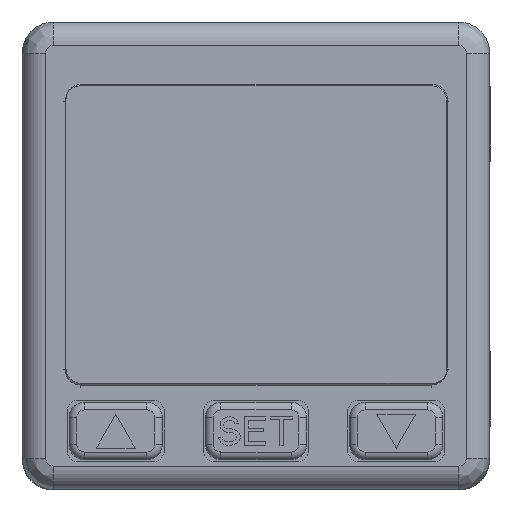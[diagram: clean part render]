
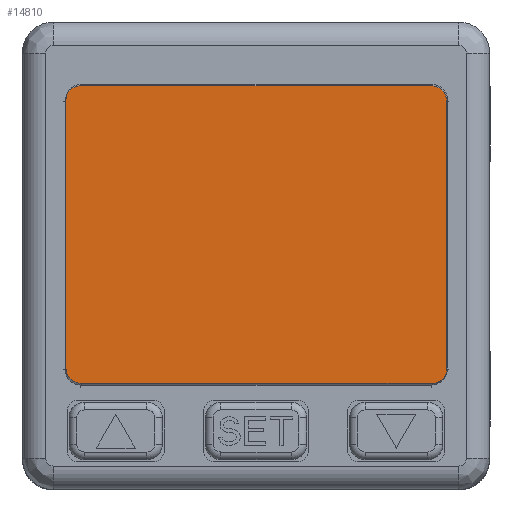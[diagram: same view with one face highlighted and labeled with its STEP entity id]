
A CAD part, top view. The second image highlights one B-rep face of the part: STEP entity #14810.
In plain terms, the highlighted planar face has unit normal (0, 0, 1).
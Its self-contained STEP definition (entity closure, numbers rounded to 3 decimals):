
#2020=CARTESIAN_POINT('',(11.25,10.992,24.97));
#2021=CARTESIAN_POINT('',(11.354,10.992,24.97));
#2022=CARTESIAN_POINT('',(11.546,10.963,24.97));
#2023=CARTESIAN_POINT('',(11.797,10.858,24.97));
#2024=CARTESIAN_POINT('',(12.016,10.695,24.97));
#2025=CARTESIAN_POINT('',(12.138,10.544,24.97));
#2026=CARTESIAN_POINT('',(12.191,10.454,24.97));
#2028=CARTESIAN_POINT('',(11.3,10.,24.97));
#2029=DIRECTION('',(0.,0.,1.));
#2030=DIRECTION('',(1.,0.,0.));
#2031=AXIS2_PLACEMENT_3D('',#2028,#2029,#2030);
#2033=DIRECTION('',(0.,1.,0.));
#2034=VECTOR('',#2033,17.2);
#2035=CARTESIAN_POINT('',(12.3,-7.2,24.97));
#2036=LINE('',#2035,#2034);
#2037=CARTESIAN_POINT('',(11.3,-7.2,24.97));
#2038=DIRECTION('',(0.,0.,1.));
#2039=DIRECTION('',(0.,-1.,0.));
#2040=AXIS2_PLACEMENT_3D('',#2037,#2038,#2039);
#2042=DIRECTION('',(1.,0.,0.));
#2043=VECTOR('',#2042,22.5);
#2044=CARTESIAN_POINT('',(-11.2,-8.2,24.97));
#2045=LINE('',#2044,#2043);
#2046=CARTESIAN_POINT('',(-11.2,-7.2,24.97));
#2047=DIRECTION('',(0.,0.,1.));
#2048=DIRECTION('',(-1.,0.,0.));
#2049=AXIS2_PLACEMENT_3D('',#2046,#2047,#2048);
#2051=DIRECTION('',(0.,-1.,0.));
#2052=VECTOR('',#2051,17.2);
#2053=CARTESIAN_POINT('',(-12.2,10.,24.97));
#2054=LINE('',#2053,#2052);
#2055=CARTESIAN_POINT('',(-11.2,10.,24.97));
#2056=DIRECTION('',(0.,0.,1.));
#2057=DIRECTION('',(-0.171,0.985,0.));
#2058=AXIS2_PLACEMENT_3D('',#2055,#2056,#2057);
#2060=CARTESIAN_POINT('',(-11.371,10.985,24.97));
#2061=CARTESIAN_POINT('',(-11.331,10.99,24.97));
#2062=CARTESIAN_POINT('',(-11.29,10.992,24.97));
#2063=CARTESIAN_POINT('',(-11.25,10.992,24.97));
#2065=DIRECTION('',(-1.,0.,0.));
#2066=VECTOR('',#2065,22.5);
#2067=CARTESIAN_POINT('',(11.25,10.992,24.97));
#2068=LINE('',#2067,#2066);
#9690=CARTESIAN_POINT('',(-12.2,10.,24.97));
#9691=CARTESIAN_POINT('',(-12.2,-7.2,24.97));
#9692=VERTEX_POINT('',#9690);
#9693=VERTEX_POINT('',#9691);
#9694=CARTESIAN_POINT('',(-11.2,-8.2,24.97));
#9695=VERTEX_POINT('',#9694);
#9696=CARTESIAN_POINT('',(11.3,-8.2,24.97));
#9697=VERTEX_POINT('',#9696);
#9698=CARTESIAN_POINT('',(12.3,-7.2,24.97));
#9699=VERTEX_POINT('',#9698);
#9700=CARTESIAN_POINT('',(12.3,10.,24.97));
#9701=VERTEX_POINT('',#9700);
#10938=VERTEX_POINT('',#2020);
#10939=VERTEX_POINT('',#2026);
#10940=CARTESIAN_POINT('',(-11.25,10.992,24.97));
#10941=VERTEX_POINT('',#10940);
#10942=VERTEX_POINT('',#2060);
#14785=CARTESIAN_POINT('',(0.05,2.6,24.97));
#14786=DIRECTION('',(0.,0.,1.));
#14787=DIRECTION('',(1.,0.,0.));
#14788=AXIS2_PLACEMENT_3D('',#14785,#14786,#14787);
#14789=PLANE('',#14788);
#14790=ORIENTED_EDGE('',*,*,#14773,.T.);
#14791=ORIENTED_EDGE('',*,*,#14731,.F.);
#14793=ORIENTED_EDGE('',*,*,#14792,.F.);
#14795=ORIENTED_EDGE('',*,*,#14794,.F.);
#14797=ORIENTED_EDGE('',*,*,#14796,.F.);
#14799=ORIENTED_EDGE('',*,*,#14798,.F.);
#14801=ORIENTED_EDGE('',*,*,#14800,.F.);
#14803=ORIENTED_EDGE('',*,*,#14802,.F.);
#14805=ORIENTED_EDGE('',*,*,#14804,.T.);
#14807=ORIENTED_EDGE('',*,*,#14806,.F.);
#14808=EDGE_LOOP('',(#14790,#14791,#14793,#14795,#14797,#14799,#14801,#14803,
#14805,#14807));
#14809=FACE_OUTER_BOUND('',#14808,.F.);
#14810=ADVANCED_FACE('',(#14809),#14789,.T.);
#2027=B_SPLINE_CURVE_WITH_KNOTS('',3,(#2020,#2021,#2022,#2023,#2024,#2025,
#2026),.UNSPECIFIED.,.F.,.F.,(4,1,1,1,4),(0.,0.25,0.5,0.75,1.),
.UNSPECIFIED.);
#2032=CIRCLE('',#2031,1.);
#2041=CIRCLE('',#2040,1.);
#2050=CIRCLE('',#2049,1.);
#2059=CIRCLE('',#2058,1.);
#2064=B_SPLINE_CURVE_WITH_KNOTS('',3,(#2060,#2061,#2062,#2063),.UNSPECIFIED.,
.F.,.F.,(4,4),(0.,1.),.UNSPECIFIED.);
#14731=EDGE_CURVE('',#9701,#10939,#2032,.T.);
#14773=EDGE_CURVE('',#10938,#10939,#2027,.T.);
#14792=EDGE_CURVE('',#9699,#9701,#2036,.T.);
#14794=EDGE_CURVE('',#9697,#9699,#2041,.T.);
#14796=EDGE_CURVE('',#9695,#9697,#2045,.T.);
#14798=EDGE_CURVE('',#9693,#9695,#2050,.T.);
#14800=EDGE_CURVE('',#9692,#9693,#2054,.T.);
#14802=EDGE_CURVE('',#10942,#9692,#2059,.T.);
#14804=EDGE_CURVE('',#10942,#10941,#2064,.T.);
#14806=EDGE_CURVE('',#10938,#10941,#2068,.T.);
